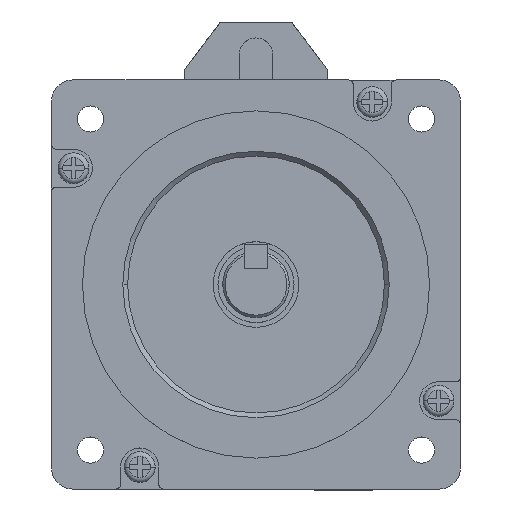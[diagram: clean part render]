
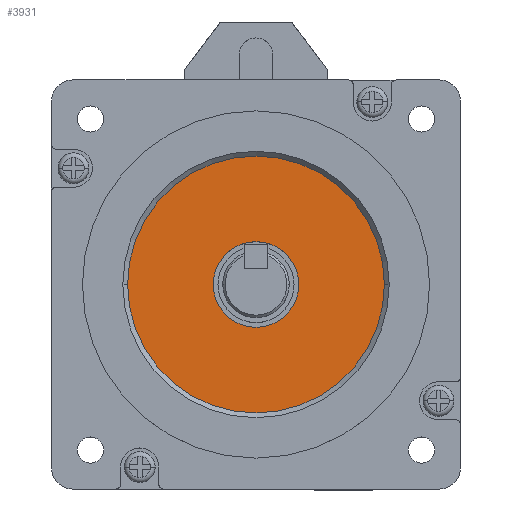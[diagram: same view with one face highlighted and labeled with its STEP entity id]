
A CAD part, top view. The second image highlights one B-rep face of the part: STEP entity #3931.
In plain terms, the highlighted planar face has unit normal (0, 0, 1).
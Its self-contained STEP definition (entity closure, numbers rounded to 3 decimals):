
#330 = EDGE_LOOP ( 'NONE', ( #3569, #3573 ) ) ;
#332 = EDGE_LOOP ( 'NONE', ( #3570, #3572 ) ) ;
#3569 = ORIENTED_EDGE ( 'NONE', *, *, #3950, .F. ) ;
#3570 = ORIENTED_EDGE ( 'NONE', *, *, #3949, .T. ) ;
#3572 = ORIENTED_EDGE ( 'NONE', *, *, #9144, .T. ) ;
#3573 = ORIENTED_EDGE ( 'NONE', *, *, #9146, .F. ) ;
#3784 = VERTEX_POINT ( 'NONE', #8443 ) ;
#3791 = VERTEX_POINT ( 'NONE', #8450 ) ;
#3795 = VERTEX_POINT ( 'NONE', #8454 ) ;
#3820 = VERTEX_POINT ( 'NONE', #8479 ) ;
#3931 = ADVANCED_FACE ( 'NONE', ( #6169, #6170 ), #8607, .T. ) ;
#3949 = EDGE_CURVE ( 'NONE', #3820, #3784, #8085, .T. ) ;
#3950 = EDGE_CURVE ( 'NONE', #3791, #3795, #8090, .T. ) ;
#6169 = FACE_OUTER_BOUND ( 'NONE', #332, .T. ) ;
#6170 = FACE_BOUND ( 'NONE', #330, .T. ) ;
#8072 = AXIS2_PLACEMENT_3D ( 'NONE', #8608, #8609, #8610 ) ;
#8085 = CIRCLE ( 'NONE', #8089, 27. ) ;
#8089 = AXIS2_PLACEMENT_3D ( 'NONE', #8674, #8675, #8676 ) ;
#8090 = CIRCLE ( 'NONE', #8091, 9. ) ;
#8091 = AXIS2_PLACEMENT_3D ( 'NONE', #8677, #8678, #8679 ) ;
#8256 = CIRCLE ( 'NONE', #8274, 9. ) ;
#8264 = CIRCLE ( 'NONE', #8270, 27. ) ;
#8270 = AXIS2_PLACEMENT_3D ( 'NONE', #8994, #8995, #8996 ) ;
#8274 = AXIS2_PLACEMENT_3D ( 'NONE', #9000, #9001, #9002 ) ;
#8443 = CARTESIAN_POINT ( 'NONE',  ( -27., 0., 10.6 ) ) ;
#8450 = CARTESIAN_POINT ( 'NONE',  ( 9., 0., 10.6 ) ) ;
#8454 = CARTESIAN_POINT ( 'NONE',  ( -9., 0., 10.6 ) ) ;
#8479 = CARTESIAN_POINT ( 'NONE',  ( 27., 0., 10.6 ) ) ;
#8607 = PLANE ( 'NONE',  #8072 ) ;
#8608 = CARTESIAN_POINT ( 'NONE',  ( 0., 0., 10.6 ) ) ;
#8609 = DIRECTION ( 'NONE',  ( 0., 0., 1. ) ) ;
#8610 = DIRECTION ( 'NONE',  ( 1., 0., 0. ) ) ;
#8674 = CARTESIAN_POINT ( 'NONE',  ( 0., 0., 10.6 ) ) ;
#8675 = DIRECTION ( 'NONE',  ( 0., 0., 1. ) ) ;
#8676 = DIRECTION ( 'NONE',  ( 1., 0., 0. ) ) ;
#8677 = CARTESIAN_POINT ( 'NONE',  ( 0., 0., 10.6 ) ) ;
#8678 = DIRECTION ( 'NONE',  ( 0., 0., 1. ) ) ;
#8679 = DIRECTION ( 'NONE',  ( 1., 0., 0. ) ) ;
#8994 = CARTESIAN_POINT ( 'NONE',  ( 0., 0., 10.6 ) ) ;
#8995 = DIRECTION ( 'NONE',  ( 0., 0., 1. ) ) ;
#8996 = DIRECTION ( 'NONE',  ( 1., 0., 0. ) ) ;
#9000 = CARTESIAN_POINT ( 'NONE',  ( 0., 0., 10.6 ) ) ;
#9001 = DIRECTION ( 'NONE',  ( 0., 0., 1. ) ) ;
#9002 = DIRECTION ( 'NONE',  ( 1., 0., 0. ) ) ;
#9144 = EDGE_CURVE ( 'NONE', #3784, #3820, #8264, .T. ) ;
#9146 = EDGE_CURVE ( 'NONE', #3795, #3791, #8256, .T. ) ;
